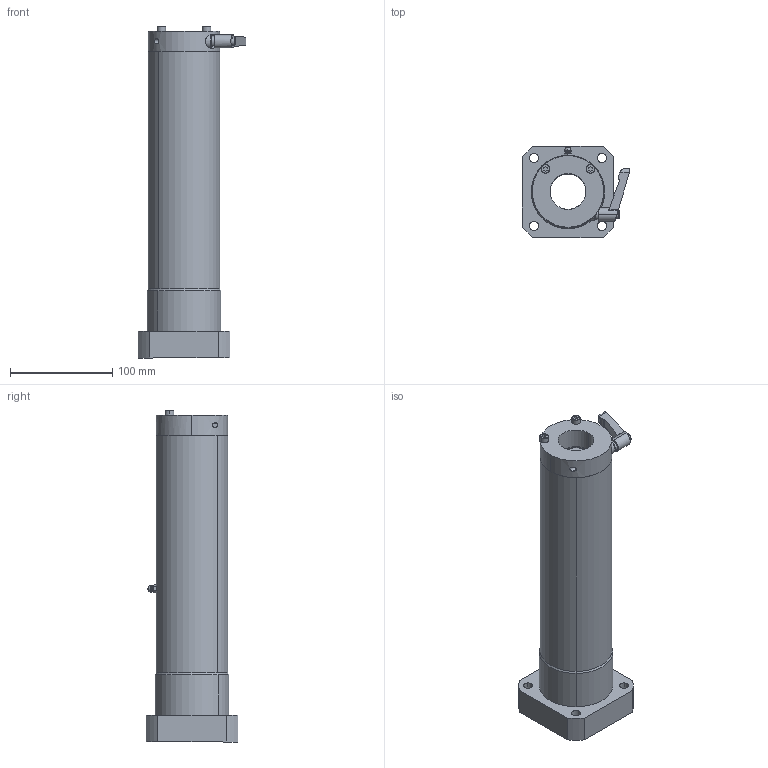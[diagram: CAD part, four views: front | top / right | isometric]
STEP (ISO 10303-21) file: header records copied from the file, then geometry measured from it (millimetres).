
FILE_DESCRIPTION (( 'STEP AP214' ), '1' );
FILE_NAME ('LFWL35B-C.STEP', '2023-06-27T02:38:43', ( '' ), ( '' ), 'SwSTEP 2.0', 'SolidWorks 2019', '' );
FILE_SCHEMA (( 'AUTOMOTIVE_DESIGN' ));
Length unit declared in the file: millimetre
Products named in the file (3): “ÁSCK3520CO-S5.5; LFWL35B-C; LFWL35B
Assembly tree (2 placements, depth 2):
  LFWL35B-C
    LFWL35B
    “ÁSCK3520CO-S5.5
Bounding box: 105.7 x 90 x 325 mm (x, y, z)
Volume: 1023283.5 mm3; surface area: 147279 mm2
Topology: 3 solids, 9 shells, 237 faces, 592 edges, 371 vertices
Faces by surface type: cylinder 85, plane 71, bspline 47, cone 22, torus 8, sphere 4
Entity records: 10432 total; most frequent: CARTESIAN_POINT 2314, DIRECTION 1238, ORIENTED_EDGE 1180, EDGE_CURVE 590, AXIS2_PLACEMENT_3D 518, VERTEX_POINT 370, CIRCLE 323, EDGE_LOOP 284
